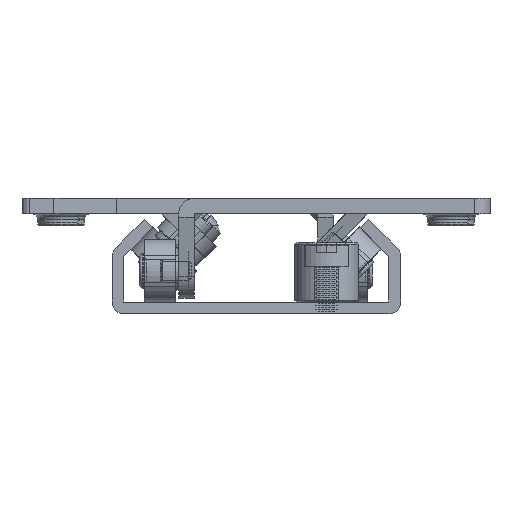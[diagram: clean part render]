
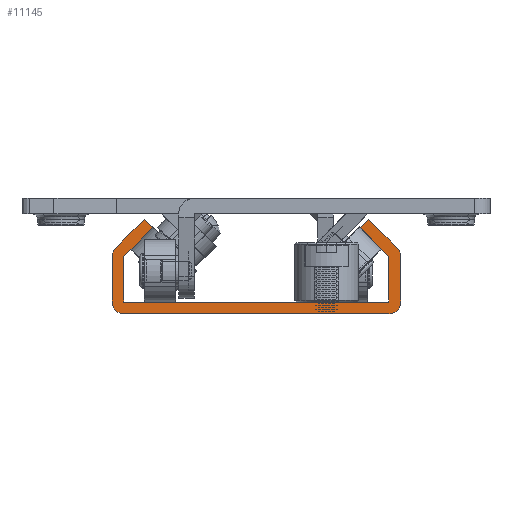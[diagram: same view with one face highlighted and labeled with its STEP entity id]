
A CAD part, left-side view. The second image highlights one B-rep face of the part: STEP entity #11145.
In plain terms, the highlighted planar face has unit normal (-1, 0, 0).
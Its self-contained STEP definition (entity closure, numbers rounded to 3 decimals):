
#11006=CARTESIAN_POINT('',(6.032,-761.972,-18.688));
#11007=VERTEX_POINT('',#11006);
#11008=CARTESIAN_POINT('',(6.032,-760.912,-17.627));
#11009=VERTEX_POINT('',#11008);
#11010=CARTESIAN_POINT('',(6.032,-760.823,-17.539));
#11011=DIRECTION('',(0.,0.707,0.707));
#11012=VECTOR('',#11011,1.);
#11013=LINE('',#11010,#11012);
#11014=EDGE_CURVE('',#11007,#11009,#11013,.T.);
#11015=ORIENTED_EDGE('',*,*,#11014,.T.);
#11016=CARTESIAN_POINT('',(6.032,-757.23,-21.309));
#11017=VERTEX_POINT('',#11016);
#11018=CARTESIAN_POINT('',(6.032,-761.124,-17.415));
#11019=DIRECTION('',(0.,-0.707,0.707));
#11020=VECTOR('',#11019,1.);
#11021=LINE('',#11018,#11020);
#11022=EDGE_CURVE('',#11017,#11009,#11021,.T.);
#11023=ORIENTED_EDGE('',*,*,#11022,.F.);
#11024=CARTESIAN_POINT('',(6.032,-756.79,-22.37));
#11025=VERTEX_POINT('',#11024);
#11026=CARTESIAN_POINT('',(6.032,-758.29,-22.37));
#11027=DIRECTION('',(1.,0.,0.));
#11028=DIRECTION('',(0.,0.,1.));
#11029=AXIS2_PLACEMENT_3D('',#11026,#11027,#11028);
#11030=CIRCLE('',#11029,1.5);
#11031=EDGE_CURVE('',#11025,#11017,#11030,.T.);
#11032=ORIENTED_EDGE('',*,*,#11031,.F.);
#11033=CARTESIAN_POINT('',(6.032,-756.79,-28.214));
#11034=VERTEX_POINT('',#11033);
#11035=CARTESIAN_POINT('',(6.032,-756.79,-28.214));
#11036=DIRECTION('',(0.,0.,1.));
#11037=VECTOR('',#11036,1.);
#11038=LINE('',#11035,#11037);
#11039=EDGE_CURVE('',#11034,#11025,#11038,.T.);
#11040=ORIENTED_EDGE('',*,*,#11039,.F.);
#11041=CARTESIAN_POINT('',(6.032,-758.29,-29.714));
#11042=VERTEX_POINT('',#11041);
#11043=CARTESIAN_POINT('',(6.032,-758.29,-28.214));
#11044=DIRECTION('',(1.,0.,0.));
#11045=DIRECTION('',(0.,1.,0.));
#11046=AXIS2_PLACEMENT_3D('',#11043,#11044,#11045);
#11047=CIRCLE('',#11046,1.5);
#11048=EDGE_CURVE('',#11042,#11034,#11047,.T.);
#11049=ORIENTED_EDGE('',*,*,#11048,.F.);
#11050=CARTESIAN_POINT('',(6.032,-792.29,-29.714));
#11051=VERTEX_POINT('',#11050);
#11052=CARTESIAN_POINT('',(6.032,-792.29,-29.714));
#11053=DIRECTION('',(0.,1.,0.));
#11054=VECTOR('',#11053,1.);
#11055=LINE('',#11052,#11054);
#11056=EDGE_CURVE('',#11051,#11042,#11055,.T.);
#11057=ORIENTED_EDGE('',*,*,#11056,.F.);
#11058=CARTESIAN_POINT('',(6.032,-793.79,-28.214));
#11059=VERTEX_POINT('',#11058);
#11060=CARTESIAN_POINT('',(6.032,-792.29,-28.214));
#11061=DIRECTION('',(1.,0.,0.));
#11062=DIRECTION('',(0.,1.,0.));
#11063=AXIS2_PLACEMENT_3D('',#11060,#11061,#11062);
#11064=CIRCLE('',#11063,1.5);
#11065=EDGE_CURVE('',#11059,#11051,#11064,.T.);
#11066=ORIENTED_EDGE('',*,*,#11065,.F.);
#11067=CARTESIAN_POINT('',(6.032,-793.79,-22.37));
#11068=VERTEX_POINT('',#11067);
#11069=CARTESIAN_POINT('',(6.032,-793.79,-28.214));
#11070=DIRECTION('',(0.,0.,-1.));
#11071=VECTOR('',#11070,1.);
#11072=LINE('',#11069,#11071);
#11073=EDGE_CURVE('',#11068,#11059,#11072,.T.);
#11074=ORIENTED_EDGE('',*,*,#11073,.F.);
#11075=CARTESIAN_POINT('',(6.032,-793.351,-21.309));
#11076=VERTEX_POINT('',#11075);
#11077=CARTESIAN_POINT('',(6.032,-792.29,-22.37));
#11078=DIRECTION('',(1.,0.,0.));
#11079=DIRECTION('',(0.,0.,1.));
#11080=AXIS2_PLACEMENT_3D('',#11077,#11078,#11079);
#11081=CIRCLE('',#11080,1.5);
#11082=EDGE_CURVE('',#11076,#11068,#11081,.T.);
#11083=ORIENTED_EDGE('',*,*,#11082,.F.);
#11084=CARTESIAN_POINT('',(6.032,-789.669,-17.627));
#11085=VERTEX_POINT('',#11084);
#11086=CARTESIAN_POINT('',(6.032,-789.457,-17.415));
#11087=DIRECTION('',(0.,-0.707,-0.707));
#11088=VECTOR('',#11087,1.);
#11089=LINE('',#11086,#11088);
#11090=EDGE_CURVE('',#11085,#11076,#11089,.T.);
#11091=ORIENTED_EDGE('',*,*,#11090,.F.);
#11092=CARTESIAN_POINT('',(6.032,-788.608,-18.688));
#11093=VERTEX_POINT('',#11092);
#11094=CARTESIAN_POINT('',(6.032,-782.939,-24.357));
#11095=DIRECTION('',(0.,0.707,-0.707));
#11096=VECTOR('',#11095,1.);
#11097=LINE('',#11094,#11096);
#11098=EDGE_CURVE('',#11085,#11093,#11097,.T.);
#11099=ORIENTED_EDGE('',*,*,#11098,.T.);
#11100=CARTESIAN_POINT('',(6.032,-792.29,-22.37));
#11101=VERTEX_POINT('',#11100);
#11102=CARTESIAN_POINT('',(6.032,-788.396,-18.475));
#11103=DIRECTION('',(0.,0.707,0.707));
#11104=VECTOR('',#11103,1.);
#11105=LINE('',#11102,#11104);
#11106=EDGE_CURVE('',#11101,#11093,#11105,.T.);
#11107=ORIENTED_EDGE('',*,*,#11106,.F.);
#11108=CARTESIAN_POINT('',(6.032,-792.29,-28.214));
#11109=VERTEX_POINT('',#11108);
#11110=CARTESIAN_POINT('',(6.032,-792.29,-28.214));
#11111=DIRECTION('',(0.,0.,1.));
#11112=VECTOR('',#11111,1.);
#11113=LINE('',#11110,#11112);
#11114=EDGE_CURVE('',#11109,#11101,#11113,.T.);
#11115=ORIENTED_EDGE('',*,*,#11114,.F.);
#11116=CARTESIAN_POINT('',(6.032,-758.29,-28.214));
#11117=VERTEX_POINT('',#11116);
#11118=CARTESIAN_POINT('',(6.032,-792.29,-28.214));
#11119=DIRECTION('',(0.,-1.,0.));
#11120=VECTOR('',#11119,1.);
#11121=LINE('',#11118,#11120);
#11122=EDGE_CURVE('',#11117,#11109,#11121,.T.);
#11123=ORIENTED_EDGE('',*,*,#11122,.F.);
#11124=CARTESIAN_POINT('',(6.032,-758.29,-22.37));
#11125=VERTEX_POINT('',#11124);
#11126=CARTESIAN_POINT('',(6.032,-758.29,-28.214));
#11127=DIRECTION('',(0.,0.,-1.));
#11128=VECTOR('',#11127,1.);
#11129=LINE('',#11126,#11128);
#11130=EDGE_CURVE('',#11125,#11117,#11129,.T.);
#11131=ORIENTED_EDGE('',*,*,#11130,.F.);
#11132=CARTESIAN_POINT('',(6.032,-762.184,-18.475));
#11133=DIRECTION('',(0.,0.707,-0.707));
#11134=VECTOR('',#11133,1.);
#11135=LINE('',#11132,#11134);
#11136=EDGE_CURVE('',#11007,#11125,#11135,.T.);
#11137=ORIENTED_EDGE('',*,*,#11136,.F.);
#11138=EDGE_LOOP('',(#11015,#11023,#11032,#11040,#11049,#11057,#11066,#11074,#11083,#11091,#11099,#11107,#11115,#11123,#11131,#11137));
#11139=FACE_OUTER_BOUND('',#11138,.T.);
#11140=CARTESIAN_POINT('',(6.032,-761.654,-17.945));
#11141=DIRECTION('',(-1.,0.,0.));
#11142=DIRECTION('',(0.,1.,0.));
#11143=AXIS2_PLACEMENT_3D('',#11140,#11141,#11142);
#11144=PLANE('',#11143);
#11145=ADVANCED_FACE('',(#11139),#11144,.T.);
